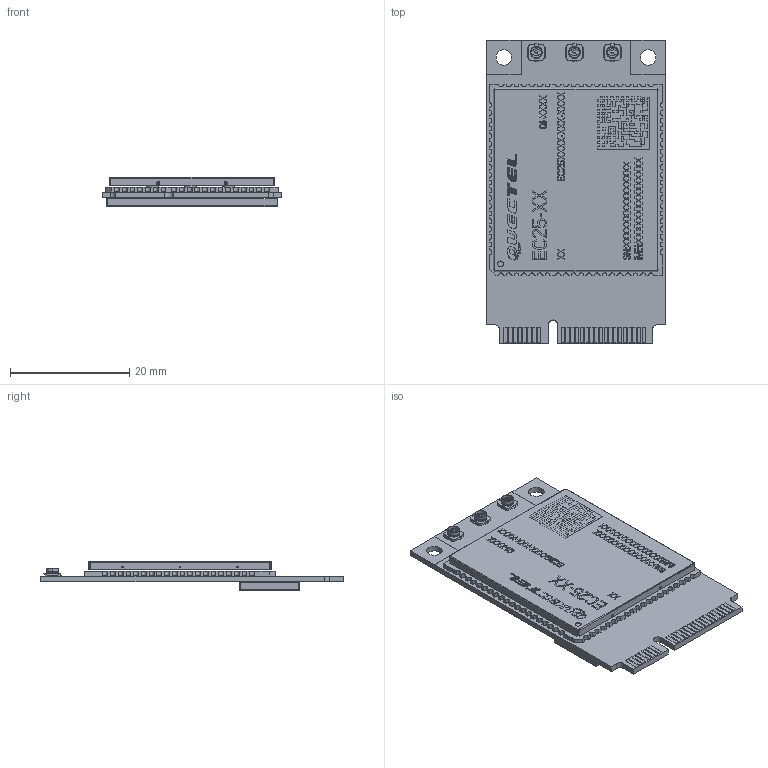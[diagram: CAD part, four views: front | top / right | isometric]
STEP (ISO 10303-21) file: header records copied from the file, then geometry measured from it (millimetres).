
FILE_DESCRIPTION((''),'2;1');
FILE_NAME('QUECTEL_EC25_MINIPCIE_3DFILE_ASM','2019-07-24T',('cesare.chen'),(''),'CREO PARAMETRIC BY PTC INC, 2014190','CREO PARAMETRIC BY PTC INC, 2014190','');
FILE_SCHEMA(('AUTOMOTIVE_DESIGN { 1 0 10303 214 1 1 1 1 }'));
Products named in the file (8): EC25_MINIPCIE_PCB; EC25_MODULE_PCB; EC25-M-COVER; QUECTEL_EC25_3D_DIMENSION_ASM; COMPONENT_3_3_0-9; UC20-MIPCIE_COVER_CB_0356; COAXIAL_CONNECTOR_02; QUECTEL_EC25_MINIPCIE_3DFILE_ASM
Assembly tree (9 placements, depth 3):
  QUECTEL_EC25_MINIPCIE_3DFILE_ASM
    EC25_MINIPCIE_PCB
    QUECTEL_EC25_3D_DIMENSION_ASM
      EC25_MODULE_PCB
      EC25-M-COVER
    COMPONENT_3_3_0-9
    UC20-MIPCIE_COVER_CB_0356
    COAXIAL_CONNECTOR_02  x3
Bounding box: 30 x 50.95 x 4.9 mm (x, y, z)
Volume: 2436.3 mm3; surface area: 8046 mm2
Topology: 8 solids, 8 shells, 3143 faces, 8281 edges, 5355 vertices
Faces by surface type: plane 2877, cylinder 153, extrusion 49, sphere 46, cone 18
Entity records: 118963 total; most frequent: CARTESIAN_POINT 16782, ORIENTED_EDGE 15910, DIRECTION 14241, PRESENTATION_STYLE_ASSIGNMENT 8209, STYLED_ITEM 7961, CURVE_STYLE 7955, EDGE_CURVE 7955, VECTOR 7571
